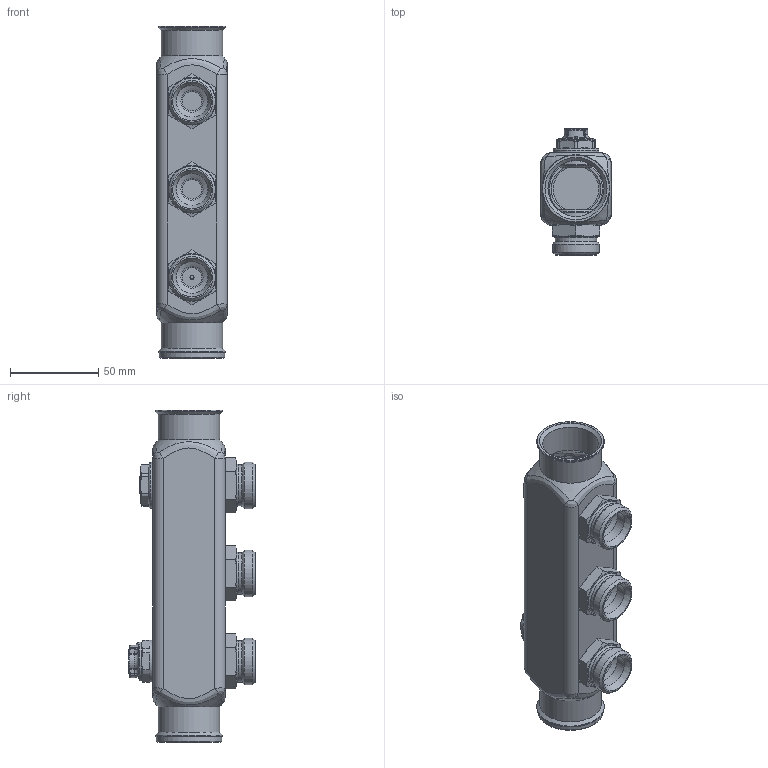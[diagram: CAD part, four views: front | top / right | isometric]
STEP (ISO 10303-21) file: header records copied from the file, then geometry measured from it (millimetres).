
FILE_DESCRIPTION(('STEP AP203'), '1');
FILE_NAME('VTc.505.SQ.060503', '2026-02-20T10:41:44', ('verevichevva'), ('Vesta'), 'C3D Converter', 'C3D Toolkit', '');
FILE_SCHEMA(('CONFIG_CONTROL_DESIGN'));
Length unit declared in the file: millimetre
Products named in the file (1): ВР.622621.184.000 СБ
Bounding box: 40 x 71.6 x 188.5 mm (x, y, z)
Volume: 80214 mm3; surface area: 81678.7 mm2
Topology: 15 solids, 15 shells, 765 faces, 1876 edges, 1173 vertices
Faces by surface type: plane 302, extrusion 118, cone 112, cylinder 111, bspline 72, torus 50
Full cylindrical faces by diameter (mm): 1.6 x1, 2.3 x1, 3.4 x1, 4.134 x1, 5 x1, 5.3 x1, 6.3 x2, 9.6 x1, 10.2 x1, 11 x3, 12.5 x3, 13 x1, 14 x1, 15.7 x1, 18 x4, 18.1 x3, 18.5 x1, 19 x5, 19.5 x2, 20 x1, 20.955 x5, 22 x1, 22.2 x5, 23 x1, 23.5 x3, 24 x1, 25.5 x1, 26 x1, 26.441 x3, 28 x1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
Entity records: 31707 total; most frequent: CARTESIAN_POINT 15598, ORIENTED_EDGE 3412, DIRECTION 2766, EDGE_CURVE 1706, VERTEX_POINT 1160, EDGE_LOOP 966, AXIS2_PLACEMENT_3D 962, VECTOR 842
